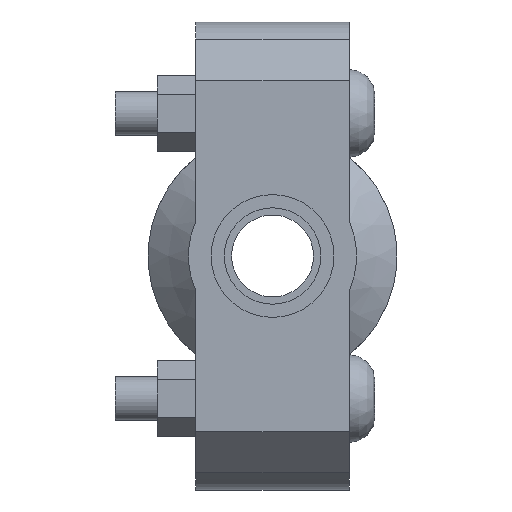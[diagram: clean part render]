
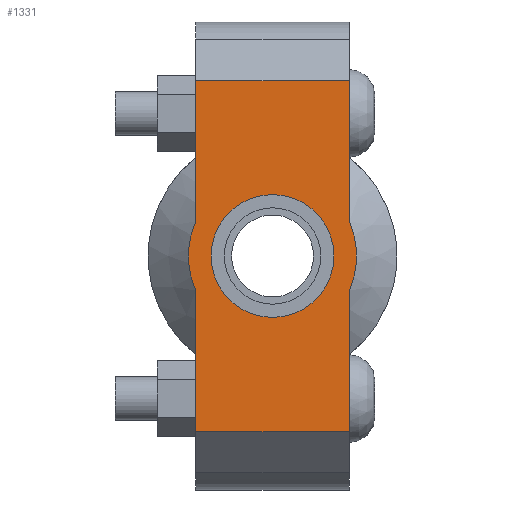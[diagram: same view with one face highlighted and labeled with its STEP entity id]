
A CAD part, left-side view. The second image highlights one B-rep face of the part: STEP entity #1331.
In plain terms, the highlighted planar face has unit normal (-1, 0, 0) as drawn and (0, 0, 1) by its records, which use the part's own axes.
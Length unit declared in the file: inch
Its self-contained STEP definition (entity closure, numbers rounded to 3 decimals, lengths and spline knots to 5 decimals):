
#103=LINE('',#2263,#194);
#118=LINE('',#2322,#209);
#126=LINE('',#2352,#217);
#128=LINE('',#2355,#219);
#129=LINE('',#2360,#220);
#130=LINE('',#2361,#221);
#194=VECTOR('',#1838,0.3937);
#209=VECTOR('',#1873,0.3937);
#217=VECTOR('',#1893,0.3937);
#219=VECTOR('',#1897,0.3937);
#220=VECTOR('',#1902,0.3937);
#221=VECTOR('',#1903,0.3937);
#273=FACE_BOUND('',#420,.T.);
#329=FACE_OUTER_BOUND('',#419,.T.);
#419=EDGE_LOOP('',(#1063,#1064,#1065,#1066,#1067,#1068,#1069,#1070));
#420=EDGE_LOOP('',(#1071));
#478=CIRCLE('',#1504,0.525);
#502=CIRCLE('',#1556,0.719);
#503=CIRCLE('',#1557,0.719);
#550=VERTEX_POINT('',#2089);
#591=VERTEX_POINT('',#2260);
#592=VERTEX_POINT('',#2262);
#613=VERTEX_POINT('',#2317);
#614=VERTEX_POINT('',#2321);
#623=VERTEX_POINT('',#2347);
#624=VERTEX_POINT('',#2351);
#625=VERTEX_POINT('',#2357);
#626=VERTEX_POINT('',#2359);
#684=EDGE_CURVE('',#550,#550,#478,.T.);
#741=EDGE_CURVE('',#592,#591,#103,.T.);
#766=EDGE_CURVE('',#614,#613,#118,.T.);
#779=EDGE_CURVE('',#624,#623,#126,.T.);
#781=EDGE_CURVE('',#624,#591,#128,.T.);
#782=EDGE_CURVE('',#623,#625,#502,.T.);
#783=EDGE_CURVE('',#625,#626,#129,.T.);
#784=EDGE_CURVE('',#614,#626,#130,.T.);
#785=EDGE_CURVE('',#613,#592,#503,.T.);
#1063=ORIENTED_EDGE('',*,*,#781,.F.);
#1064=ORIENTED_EDGE('',*,*,#779,.T.);
#1065=ORIENTED_EDGE('',*,*,#782,.T.);
#1066=ORIENTED_EDGE('',*,*,#783,.T.);
#1067=ORIENTED_EDGE('',*,*,#784,.F.);
#1068=ORIENTED_EDGE('',*,*,#766,.T.);
#1069=ORIENTED_EDGE('',*,*,#785,.T.);
#1070=ORIENTED_EDGE('',*,*,#741,.T.);
#1071=ORIENTED_EDGE('',*,*,#684,.T.);
#1196=PLANE('',#1555);
#1331=ADVANCED_FACE('',(#329,#273),#1196,.T.);
#1504=AXIS2_PLACEMENT_3D('',#2091,#1728,#1729);
#1555=AXIS2_PLACEMENT_3D('',#2356,#1898,#1899);
#1556=AXIS2_PLACEMENT_3D('',#2358,#1900,#1901);
#1557=AXIS2_PLACEMENT_3D('',#2362,#1904,#1905);
#1728=DIRECTION('center_axis',(0.,0.,-1.));
#1729=DIRECTION('ref_axis',(-1.,0.,0.));
#1838=DIRECTION('',(-1.,0.,0.));
#1873=DIRECTION('',(-1.,0.,0.));
#1893=DIRECTION('',(1.,0.,0.));
#1897=DIRECTION('',(0.,1.,0.));
#1898=DIRECTION('center_axis',(0.,0.,1.));
#1899=DIRECTION('ref_axis',(1.,0.,0.));
#1900=DIRECTION('center_axis',(0.,0.,1.));
#1901=DIRECTION('ref_axis',(-1.,0.,0.));
#1902=DIRECTION('',(1.,0.,0.));
#1903=DIRECTION('',(0.,-1.,0.));
#1904=DIRECTION('center_axis',(0.,0.,1.));
#1905=DIRECTION('ref_axis',(-1.,0.,0.));
#2089=CARTESIAN_POINT('',(0.525,0.,0.875));
#2091=CARTESIAN_POINT('Origin',(0.,0.,0.875));
#2260=CARTESIAN_POINT('',(-1.5,0.656,0.875));
#2262=CARTESIAN_POINT('',(-0.29432,0.656,0.875));
#2263=CARTESIAN_POINT('',(2.,0.656,0.875));
#2317=CARTESIAN_POINT('',(0.29432,0.656,0.875));
#2321=CARTESIAN_POINT('',(1.5,0.656,0.875));
#2322=CARTESIAN_POINT('',(2.,0.656,0.875));
#2347=CARTESIAN_POINT('',(-0.29432,-0.656,0.875));
#2351=CARTESIAN_POINT('',(-1.5,-0.656,0.875));
#2352=CARTESIAN_POINT('',(-2.,-0.656,0.875));
#2355=CARTESIAN_POINT('',(-1.5,0.328,0.875));
#2356=CARTESIAN_POINT('Origin',(0.,0.,
0.875));
#2357=CARTESIAN_POINT('',(0.29432,-0.656,0.875));
#2358=CARTESIAN_POINT('Origin',(0.,0.,0.875));
#2359=CARTESIAN_POINT('',(1.5,-0.656,0.875));
#2360=CARTESIAN_POINT('',(-2.,-0.656,0.875));
#2361=CARTESIAN_POINT('',(1.5,-0.328,0.875));
#2362=CARTESIAN_POINT('Origin',(0.,0.,0.875));
